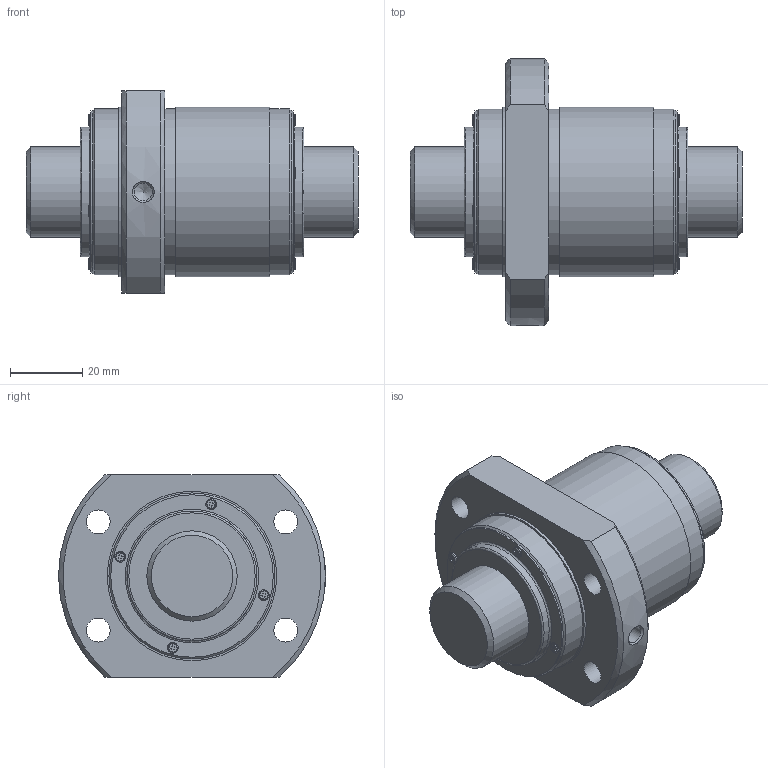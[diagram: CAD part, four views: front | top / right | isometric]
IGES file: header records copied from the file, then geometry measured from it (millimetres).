
Start section: Data from Parasolid IGES Translator 26.0.171, Copyright(c) 2006 Siemens PLM Software. All Rights Reserved.
Global section: file name: BLK2525-7.2ZZ+92LC7T_000.igs; native system: By Siemens PLM Incorporated; preprocessor: XPlus GENERIC/IGES 26.0.171; author: Noname; organization: Noname; date: 20250611.062913; units: millimetre
Bounding box: 92 x 74 x 56 mm (x, y, z)
Surface area: 29904.8 mm2 (no closed solid volume)
Topology: 0 solids, 0 shells, 213 faces, 1085 edges, 1013 vertices
Faces by surface type: extrusion 125, revolution 88
